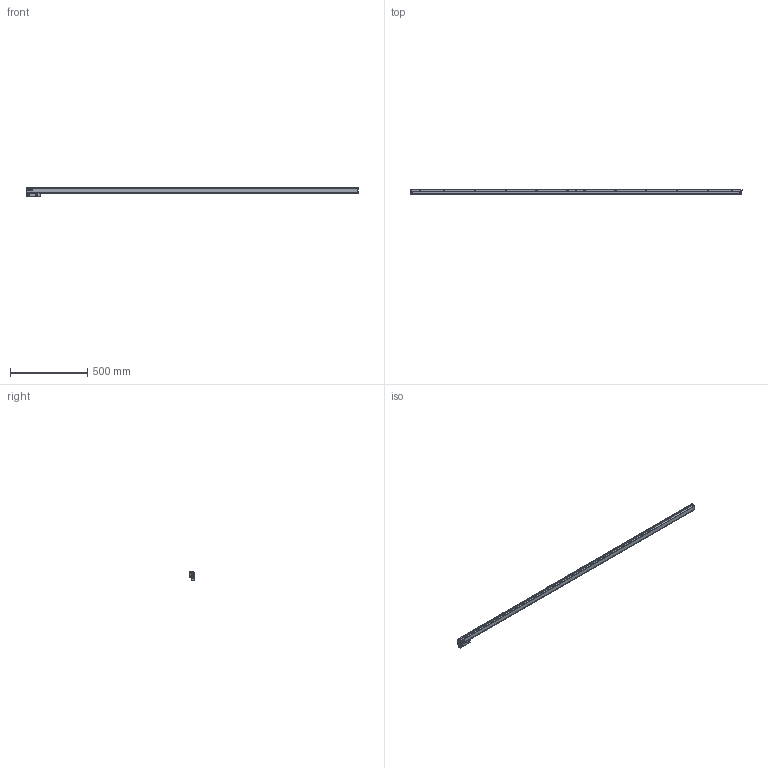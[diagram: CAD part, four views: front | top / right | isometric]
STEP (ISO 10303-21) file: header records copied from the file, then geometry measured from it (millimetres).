
FILE_DESCRIPTION(('Creo Elements/Direct Modeling STEP Export'),'2;1');
FILE_NAME('Regla SV2-2040.stp','2015-07-07T 9:03:20',(''),(''),'Creo Elements/Direct Modeling STEP processor for AP214 (Solid Model)','Creo Elements/Direct Modeling 18.1G 27-Feb-2015 (C) Parametric Technology GmbH','');
FILE_SCHEMA(('AUTOMOTIVE_DESIGN { 1 0 10303 214 1 1 1 1 }'));
Length unit declared in the file: millimetre
Products named in the file (4): CABEZA_RANURADA_REGLA_SV2; REGLA_SV2-2040; SOPORTE_SV2; REGLA_SV2-2040mm
Assembly tree (3 placements, depth 2):
  REGLA_SV2-2040mm
    SOPORTE_SV2
    REGLA_SV2-2040
    CABEZA_RANURADA_REGLA_SV2
Bounding box: 2145 x 28 x 56.2 mm (x, y, z)
Volume: 1138985.6 mm3; surface area: 607718.8 mm2
Topology: 2 solids, 21 shells, 3961 faces, 11213 edges, 7323 vertices
Faces by surface type: plane 1785, cylinder 1594, cone 318, bspline 162, torus 90, sphere 12
Entity records: 174208 total; most frequent: CARTESIAN_POINT 56957, ORIENTED_EDGE 22446, DIRECTION 18438, EDGE_CURVE 11183, VERTEX_POINT 7323, AXIS2_PLACEMENT_3D 6341, VECTOR 5756, LINE 5756
